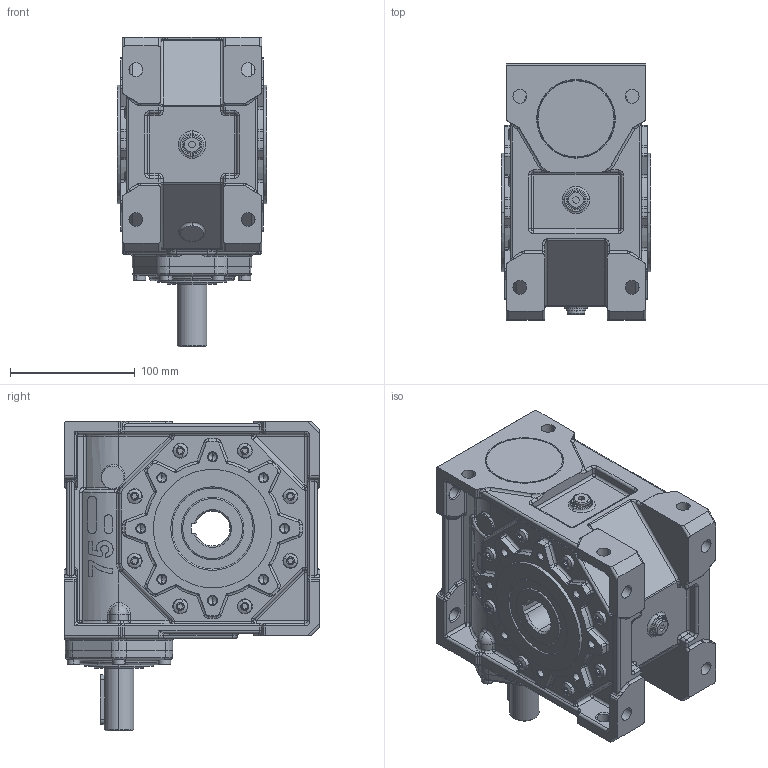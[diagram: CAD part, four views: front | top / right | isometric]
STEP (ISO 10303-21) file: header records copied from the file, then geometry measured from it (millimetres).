
FILE_DESCRIPTION (( 'STEP AP214' ), '1' );
FILE_NAME ('MKT75-FTRL-Solid Shaft.STEP', '2006-05-10T07:39:09', ( '' ), ( '' ), 'SwSTEP 2.0', 'SolidWorks 2004146', '' );
FILE_SCHEMA (( 'AUTOMOTIVE_DESIGN' ));
Length unit declared in the file: millimetre
Products named in the file (4): D6912_Šroub DIN 6912 - M6x25; MKT75-FTRL-Solid Shaft; Víèko RT80_Výchozí; Skrin MKT75_MKT 75 Solid Shaft
Assembly tree (8 placements, depth 2):
  MKT75-FTRL-Solid Shaft
    D6912_Šroub DIN 6912 - M6x25  x6
    Skrin MKT75_MKT 75 Solid Shaft
    Víèko RT80_Výchozí
Bounding box: 120 x 205 x 248 mm (x, y, z)
Volume: 3233097.5 mm3; surface area: 251534 mm2
Topology: 8 solids, 8 shells, 1948 faces, 4595 edges, 2618 vertices
Faces by surface type: cylinder 793, plane 374, torus 319, cone 200, sphere 137, bspline 125
Entity records: 130507 total; most frequent: CARTESIAN_POINT 85832, DIRECTION 9311, ORIENTED_EDGE 8226, EDGE_CURVE 4113, AXIS2_PLACEMENT_3D 3886, VERTEX_POINT 2443, CIRCLE 2237, EDGE_LOOP 1894
